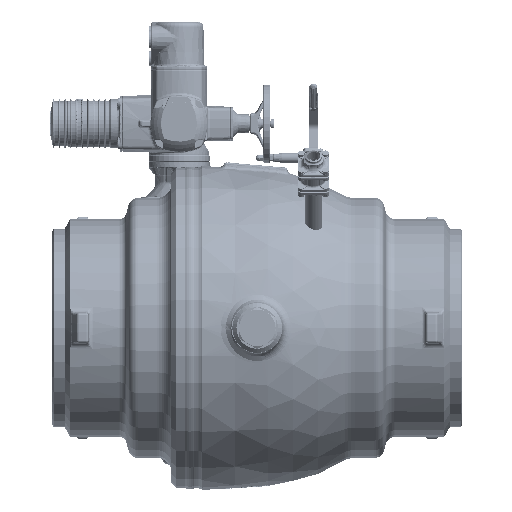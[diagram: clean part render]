
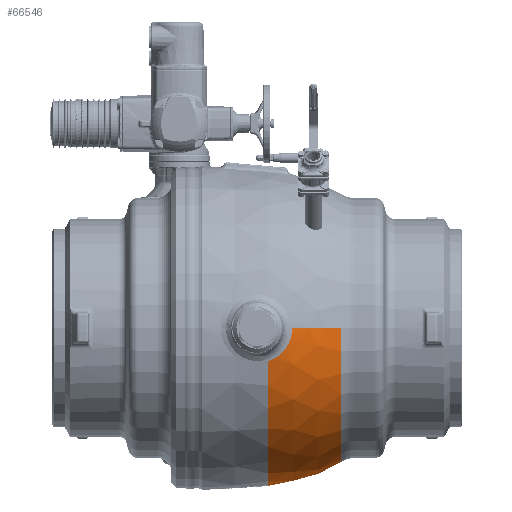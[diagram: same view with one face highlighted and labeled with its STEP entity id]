
A CAD part, front view. The second image highlights one B-rep face of the part: STEP entity #66546.
In plain terms, the highlighted spherical face has radius 323.5 mm.
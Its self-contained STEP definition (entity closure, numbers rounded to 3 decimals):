
#8925=CARTESIAN_POINT('',(0.,0.,0.));
#8926=DIRECTION('',(0.,-1.,0.));
#8927=DIRECTION('',(0.533,0.,0.846));
#8928=AXIS2_PLACEMENT_3D('',#8925,#8926,#8927);
#8935=CARTESIAN_POINT('',(0.,0.,0.));
#8936=DIRECTION('',(0.,1.,0.));
#8937=DIRECTION('',(0.533,0.,-0.846));
#8938=AXIS2_PLACEMENT_3D('',#8935,#8936,#8937);
#9907=CARTESIAN_POINT('',(21.358,0.,0.));
#9908=DIRECTION('',(-1.,0.,0.));
#9909=DIRECTION('',(0.,0.997,-0.077));
#9910=AXIS2_PLACEMENT_3D('',#9907,#9908,#9909);
#9926=CARTESIAN_POINT('',(21.358,0.,0.));
#9927=DIRECTION('',(-1.,0.,0.));
#9928=DIRECTION('',(0.,0.999,0.043));
#9929=AXIS2_PLACEMENT_3D('',#9926,#9927,#9928);
#9968=CARTESIAN_POINT('',(21.358,0.,0.));
#9969=DIRECTION('',(-1.,0.,0.));
#9970=DIRECTION('',(0.,0.994,0.108));
#9971=AXIS2_PLACEMENT_3D('',#9968,#9969,#9970);
#10042=CARTESIAN_POINT('',(21.358,0.,0.));
#10043=DIRECTION('',(-1.,0.,0.));
#10044=DIRECTION('',(0.,0.286,0.958));
#10045=AXIS2_PLACEMENT_3D('',#10042,#10043,#10044);
#11812=CARTESIAN_POINT('',(23.,0.,0.));
#11813=DIRECTION('',(-1.,0.,0.));
#11814=DIRECTION('',(0.,0.999,0.037));
#11815=AXIS2_PLACEMENT_3D('',#11812,#11813,#11814);
#11817=CARTESIAN_POINT('',(19.986,0.,15.656));
#11818=DIRECTION('',(-0.787,0.,-0.617));
#11819=DIRECTION('',(0.004,1.,-0.005));
#11820=AXIS2_PLACEMENT_3D('',#11817,#11818,#11819);
#11822=CARTESIAN_POINT('',(0.,0.,-5.));
#11823=DIRECTION('',(0.,0.,1.));
#11824=DIRECTION('',(0.071,0.997,0.));
#11825=AXIS2_PLACEMENT_3D('',#11822,#11823,#11824);
#11827=CARTESIAN_POINT('',(13.539,0.,9.091));
#11828=DIRECTION('',(0.83,0.,0.557));
#11829=DIRECTION('',(0.035,0.998,-0.053));
#11830=AXIS2_PLACEMENT_3D('',#11827,#11828,#11829);
#11832=CARTESIAN_POINT('',(25.,0.,0.));
#11833=DIRECTION('',(-1.,0.,0.));
#11834=DIRECTION('',(0.,1.,-0.025));
#11835=AXIS2_PLACEMENT_3D('',#11832,#11833,#11834);
#11837=CARTESIAN_POINT('',(11.964,0.,8.033));
#11838=DIRECTION('',(-0.83,0.,-0.557));
#11839=DIRECTION('',(0.034,0.998,-0.051));
#11840=AXIS2_PLACEMENT_3D('',#11837,#11838,#11839);
#11842=CARTESIAN_POINT('',(23.,0.,0.));
#11843=DIRECTION('',(-1.,0.,0.));
#11844=DIRECTION('',(0.,1.,-0.026));
#11845=AXIS2_PLACEMENT_3D('',#11842,#11843,#11844);
#11847=CARTESIAN_POINT('',(0.,0.,-25.));
#11848=DIRECTION('',(0.,0.,-1.));
#11849=DIRECTION('',(0.066,0.998,0.));
#11850=AXIS2_PLACEMENT_3D('',#11847,#11848,#11849);
#11852=CARTESIAN_POINT('',(0.,0.,-315.448));
#11853=DIRECTION('',(0.,0.,-1.));
#11854=DIRECTION('',(0.298,0.955,0.));
#11855=AXIS2_PLACEMENT_3D('',#11852,#11853,#11854);
#11857=CARTESIAN_POINT('',(172.459,0.,0.));
#11858=DIRECTION('',(1.,0.,0.));
#11859=DIRECTION('',(0.,0.,-1.));
#11860=AXIS2_PLACEMENT_3D('',#11857,#11858,#11859);
#11862=CARTESIAN_POINT('',(0.,0.,309.324));
#11863=DIRECTION('',(0.,0.,1.));
#11864=DIRECTION('',(1.,0.,0.));
#11865=AXIS2_PLACEMENT_3D('',#11862,#11863,#11864);
#11867=CARTESIAN_POINT('',(0.,0.,55.));
#11868=DIRECTION('',(0.,0.,1.));
#11869=DIRECTION('',(0.078,0.997,0.));
#11870=AXIS2_PLACEMENT_3D('',#11867,#11868,#11869);
#11872=CARTESIAN_POINT('',(25.,0.,0.));
#11873=DIRECTION('',(-1.,0.,0.));
#11874=DIRECTION('',(0.,0.985,0.171));
#11875=AXIS2_PLACEMENT_3D('',#11872,#11873,#11874);
#11877=CARTESIAN_POINT('',(0.,0.,35.));
#11878=DIRECTION('',(0.,0.,-1.));
#11879=DIRECTION('',(0.066,0.998,0.));
#11880=AXIS2_PLACEMENT_3D('',#11877,#11878,#11879);
#11882=CARTESIAN_POINT('',(22.03,0.,16.507));
#11883=DIRECTION('',(0.8,0.,0.6));
#11884=DIRECTION('',(0.003,1.,-0.004));
#11885=AXIS2_PLACEMENT_3D('',#11882,#11883,#11884);
#11887=CARTESIAN_POINT('',(23.,0.,0.));
#11888=DIRECTION('',(-1.,0.,0.));
#11889=DIRECTION('',(0.,0.997,0.077));
#11890=AXIS2_PLACEMENT_3D('',#11887,#11888,#11889);
#11892=CARTESIAN_POINT('',(0.,0.,25.));
#11893=DIRECTION('',(0.,0.,1.));
#11894=DIRECTION('',(0.078,0.997,0.));
#11895=AXIS2_PLACEMENT_3D('',#11892,#11893,#11894);
#11897=CARTESIAN_POINT('',(25.,0.,0.));
#11898=DIRECTION('',(-1.,0.,0.));
#11899=DIRECTION('',(0.,0.997,0.078));
#11900=AXIS2_PLACEMENT_3D('',#11897,#11898,#11899);
#11902=CARTESIAN_POINT('',(0.,0.,5.));
#11903=DIRECTION('',(0.,0.,-1.));
#11904=DIRECTION('',(0.071,0.997,0.));
#11905=AXIS2_PLACEMENT_3D('',#11902,#11903,#11904);
#31645=CARTESIAN_POINT('',(172.459,0.,
-273.697));
#31646=CARTESIAN_POINT('',(172.459,0.,273.697));
#31647=VERTEX_POINT('',#31645);
#31648=VERTEX_POINT('',#31646);
#31661=CARTESIAN_POINT('',(94.716,0.,309.324));
#31662=VERTEX_POINT('',#31661);
#31665=CARTESIAN_POINT('',(71.725,0.,
-315.448));
#31666=VERTEX_POINT('',#31665);
#31768=CARTESIAN_POINT('',(21.358,92.277,309.324));
#31769=VERTEX_POINT('',#31768);
#32146=CARTESIAN_POINT('',(23.,322.465,11.809));
#32147=CARTESIAN_POINT('',(23.,322.643,5.));
#32148=VERTEX_POINT('',#32146);
#32149=VERTEX_POINT('',#32147);
#32150=CARTESIAN_POINT('',(21.358,322.495,13.905));
#32151=VERTEX_POINT('',#32150);
#32152=CARTESIAN_POINT('',(23.,322.323,15.213));
#32153=CARTESIAN_POINT('',(21.358,322.325,17.404));
#32154=VERTEX_POINT('',#32152);
#32155=VERTEX_POINT('',#32153);
#32156=CARTESIAN_POINT('',(23.,321.711,25.));
#32157=VERTEX_POINT('',#32156);
#32158=CARTESIAN_POINT('',(25.,321.562,25.));
#32159=VERTEX_POINT('',#32158);
#32160=CARTESIAN_POINT('',(25.,322.494,5.));
#32161=VERTEX_POINT('',#32160);
#32162=CARTESIAN_POINT('',(23.,322.643,-5.));
#32163=CARTESIAN_POINT('',(21.358,322.755,-5.));
#32164=VERTEX_POINT('',#32162);
#32165=VERTEX_POINT('',#32163);
#32166=CARTESIAN_POINT('',(25.,322.434,-7.979));
#32167=VERTEX_POINT('',#32166);
#32168=CARTESIAN_POINT('',(25.,322.332,-11.383));
#32169=VERTEX_POINT('',#32168);
#32170=CARTESIAN_POINT('',(23.,322.572,-8.404));
#32171=VERTEX_POINT('',#32170);
#32172=CARTESIAN_POINT('',(23.,321.711,-25.));
#32173=VERTEX_POINT('',#32172);
#32174=CARTESIAN_POINT('',(21.358,321.825,-25.));
#32175=VERTEX_POINT('',#32174);
#32356=CARTESIAN_POINT('',(21.358,318.074,55.));
#32357=VERTEX_POINT('',#32356);
#32362=CARTESIAN_POINT('',(21.358,320.891,35.));
#32363=VERTEX_POINT('',#32362);
#32630=CARTESIAN_POINT('',(21.358,68.472,
-315.448));
#32631=VERTEX_POINT('',#32630);
#33141=CARTESIAN_POINT('',(25.,317.809,55.));
#33142=VERTEX_POINT('',#33141);
#33143=CARTESIAN_POINT('',(25.,320.628,35.));
#33144=VERTEX_POINT('',#33143);
#66496=CARTESIAN_POINT('',(0.,0.,0.));
#66497=DIRECTION('',(-1.,0.,0.));
#66498=DIRECTION('',(0.,0.,1.));
#66499=AXIS2_PLACEMENT_3D('',#66496,#66497,#66498);
#66500=SPHERICAL_SURFACE('',#66499,323.5);
#66502=ORIENTED_EDGE('',*,*,#66501,.F.);
#66504=ORIENTED_EDGE('',*,*,#66503,.F.);
#66505=ORIENTED_EDGE('',*,*,#65352,.T.);
#66507=ORIENTED_EDGE('',*,*,#66506,.F.);
#66509=ORIENTED_EDGE('',*,*,#66508,.F.);
#66511=ORIENTED_EDGE('',*,*,#66510,.T.);
#66513=ORIENTED_EDGE('',*,*,#66512,.F.);
#66515=ORIENTED_EDGE('',*,*,#66514,.T.);
#66517=ORIENTED_EDGE('',*,*,#66516,.F.);
#66518=ORIENTED_EDGE('',*,*,#65344,.T.);
#66519=ORIENTED_EDGE('',*,*,#66487,.T.);
#66520=ORIENTED_EDGE('',*,*,#64441,.F.);
#66522=ORIENTED_EDGE('',*,*,#66521,.T.);
#66523=ORIENTED_EDGE('',*,*,#64437,.T.);
#66525=ORIENTED_EDGE('',*,*,#66524,.T.);
#66526=ORIENTED_EDGE('',*,*,#65396,.T.);
#66528=ORIENTED_EDGE('',*,*,#66527,.F.);
#66530=ORIENTED_EDGE('',*,*,#66529,.T.);
#66532=ORIENTED_EDGE('',*,*,#66531,.F.);
#66533=ORIENTED_EDGE('',*,*,#65368,.T.);
#66535=ORIENTED_EDGE('',*,*,#66534,.F.);
#66537=ORIENTED_EDGE('',*,*,#66536,.F.);
#66539=ORIENTED_EDGE('',*,*,#66538,.F.);
#66541=ORIENTED_EDGE('',*,*,#66540,.T.);
#66543=ORIENTED_EDGE('',*,*,#66542,.F.);
#66544=EDGE_LOOP('',(#66502,#66504,#66505,#66507,#66509,#66511,#66513,#66515,
#66517,#66518,#66519,#66520,#66522,#66523,#66525,#66526,#66528,#66530,#66532,
#66533,#66535,#66537,#66539,#66541,#66543));
#66545=FACE_OUTER_BOUND('',#66544,.F.);
#66546=ADVANCED_FACE('',(#66545),#66500,.T.);
#8929=CIRCLE('',#8928,323.5);
#8939=CIRCLE('',#8938,323.5);
#9911=CIRCLE('',#9910,322.794);
#9930=CIRCLE('',#9929,322.794);
#9972=CIRCLE('',#9971,322.794);
#10046=CIRCLE('',#10045,322.794);
#11816=CIRCLE('',#11815,322.681);
#11821=CIRCLE('',#11820,322.502);
#11826=CIRCLE('',#11825,323.461);
#11831=CIRCLE('',#11830,323.089);
#11836=CIRCLE('',#11835,322.533);
#11841=CIRCLE('',#11840,323.179);
#11846=CIRCLE('',#11845,322.681);
#11851=CIRCLE('',#11850,322.533);
#11856=CIRCLE('',#11855,71.725);
#11861=CIRCLE('',#11860,273.697);
#11866=CIRCLE('',#11865,94.716);
#11871=CIRCLE('',#11870,318.79);
#11876=CIRCLE('',#11875,322.533);
#11881=CIRCLE('',#11880,321.601);
#11886=CIRCLE('',#11885,322.327);
#11891=CIRCLE('',#11890,322.681);
#11896=CIRCLE('',#11895,322.533);
#11901=CIRCLE('',#11900,322.533);
#11906=CIRCLE('',#11905,323.461);
#64437=EDGE_CURVE('',#31648,#31662,#8929,.T.);
#64441=EDGE_CURVE('',#31647,#31666,#8939,.T.);
#65344=EDGE_CURVE('',#32175,#32631,#9911,.T.);
#65352=EDGE_CURVE('',#32151,#32165,#9930,.T.);
#65368=EDGE_CURVE('',#32363,#32155,#9972,.T.);
#65396=EDGE_CURVE('',#31769,#32357,#10046,.T.);
#66487=EDGE_CURVE('',#32631,#31666,#11856,.T.);
#66501=EDGE_CURVE('',#32148,#32149,#11816,.T.);
#66503=EDGE_CURVE('',#32151,#32148,#11821,.T.);
#66506=EDGE_CURVE('',#32164,#32165,#11826,.T.);
#66508=EDGE_CURVE('',#32167,#32164,#11831,.T.);
#66510=EDGE_CURVE('',#32167,#32169,#11836,.T.);
#66512=EDGE_CURVE('',#32171,#32169,#11841,.T.);
#66514=EDGE_CURVE('',#32171,#32173,#11846,.T.);
#66516=EDGE_CURVE('',#32175,#32173,#11851,.T.);
#66521=EDGE_CURVE('',#31647,#31648,#11861,.T.);
#66524=EDGE_CURVE('',#31662,#31769,#11866,.T.);
#66527=EDGE_CURVE('',#33142,#32357,#11871,.T.);
#66529=EDGE_CURVE('',#33142,#33144,#11876,.T.);
#66531=EDGE_CURVE('',#32363,#33144,#11881,.T.);
#66534=EDGE_CURVE('',#32154,#32155,#11886,.T.);
#66536=EDGE_CURVE('',#32157,#32154,#11891,.T.);
#66538=EDGE_CURVE('',#32159,#32157,#11896,.T.);
#66540=EDGE_CURVE('',#32159,#32161,#11901,.T.);
#66542=EDGE_CURVE('',#32149,#32161,#11906,.T.);
